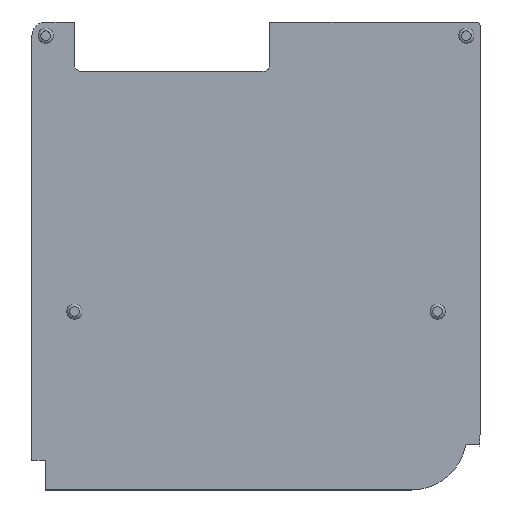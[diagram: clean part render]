
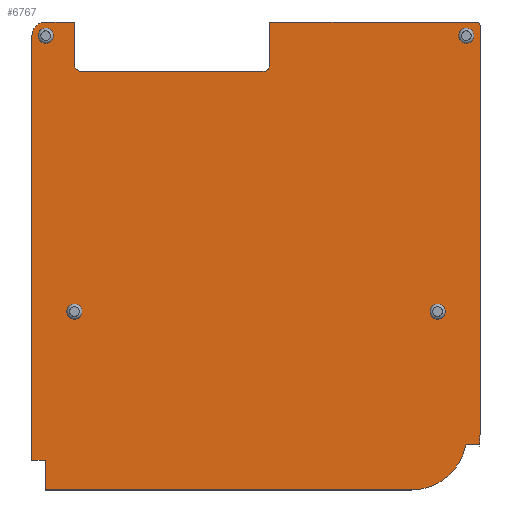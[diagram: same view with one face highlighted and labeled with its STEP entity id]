
A CAD part, top view. The second image highlights one B-rep face of the part: STEP entity #6767.
In plain terms, the highlighted planar face has unit normal (0, 0, 1).
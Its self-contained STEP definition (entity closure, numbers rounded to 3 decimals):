
#43=CIRCLE('',#7010,0.5);
#44=CIRCLE('',#7013,0.5);
#45=CIRCLE('',#7016,1.);
#46=CIRCLE('',#7017,4.05);
#47=CIRCLE('',#7018,5.);
#48=CIRCLE('',#7019,0.25);
#49=CIRCLE('',#7020,0.55);
#50=CIRCLE('',#7021,0.55);
#51=CIRCLE('',#7022,0.55);
#52=CIRCLE('',#7023,0.55);
#96=FACE_BOUND('',#1010,.T.);
#97=FACE_BOUND('',#1011,.T.);
#98=FACE_BOUND('',#1012,.T.);
#99=FACE_BOUND('',#1013,.T.);
#276=PLANE('',#7015);
#623=FACE_OUTER_BOUND('',#1009,.T.);
#1009=EDGE_LOOP('',(#6107,#6108,#6109,#6110,#6111,#6112,#6113,#6114,#6115,
#6116,#6117,#6118,#6119,#6120,#6121,#6122,#6123,#6124));
#1010=EDGE_LOOP('',(#6125));
#1011=EDGE_LOOP('',(#6126));
#1012=EDGE_LOOP('',(#6127));
#1013=EDGE_LOOP('',(#6128));
#1653=LINE('',#11913,#2320);
#1659=LINE('',#11926,#2326);
#1664=LINE('',#11938,#2331);
#1665=LINE('',#11941,#2332);
#1666=LINE('',#11945,#2333);
#1667=LINE('',#11947,#2334);
#1668=LINE('',#11949,#2335);
#1669=LINE('',#11951,#2336);
#1670=LINE('',#11955,#2337);
#1671=LINE('',#11957,#2338);
#1672=LINE('',#11961,#2339);
#1673=LINE('',#11964,#2340);
#2320=VECTOR('',#8039,10.);
#2326=VECTOR('',#8051,10.);
#2331=VECTOR('',#8062,10.);
#2332=VECTOR('',#8065,10.);
#2333=VECTOR('',#8068,10.);
#2334=VECTOR('',#8069,10.);
#2335=VECTOR('',#8070,10.);
#2336=VECTOR('',#8071,10.);
#2337=VECTOR('',#8074,10.);
#2338=VECTOR('',#8075,10.);
#2339=VECTOR('',#8078,10.);
#2340=VECTOR('',#8081,10.);
#3275=VERTEX_POINT('',#11910);
#3276=VERTEX_POINT('',#11912);
#3279=VERTEX_POINT('',#11920);
#3280=VERTEX_POINT('',#11924);
#3281=VERTEX_POINT('',#11928);
#3284=VERTEX_POINT('',#11936);
#3285=VERTEX_POINT('',#11940);
#3286=VERTEX_POINT('',#11942);
#3287=VERTEX_POINT('',#11944);
#3288=VERTEX_POINT('',#11946);
#3289=VERTEX_POINT('',#11948);
#3290=VERTEX_POINT('',#11950);
#3291=VERTEX_POINT('',#11952);
#3292=VERTEX_POINT('',#11954);
#3293=VERTEX_POINT('',#11956);
#3294=VERTEX_POINT('',#11958);
#3295=VERTEX_POINT('',#11960);
#3296=VERTEX_POINT('',#11962);
#3297=VERTEX_POINT('',#11965);
#3298=VERTEX_POINT('',#11967);
#3299=VERTEX_POINT('',#11969);
#3300=VERTEX_POINT('',#11971);
#4226=EDGE_CURVE('',#3276,#3275,#1653,.T.);
#4231=EDGE_CURVE('',#3275,#3279,#43,.T.);
#4233=EDGE_CURVE('',#3279,#3280,#1659,.T.);
#4235=EDGE_CURVE('',#3280,#3281,#44,.T.);
#4239=EDGE_CURVE('',#3281,#3284,#1664,.T.);
#4240=EDGE_CURVE('',#3284,#3285,#1665,.T.);
#4241=EDGE_CURVE('',#3285,#3286,#45,.T.);
#4242=EDGE_CURVE('',#3286,#3287,#1666,.T.);
#4243=EDGE_CURVE('',#3287,#3288,#1667,.T.);
#4244=EDGE_CURVE('',#3288,#3289,#1668,.T.);
#4245=EDGE_CURVE('',#3289,#3290,#1669,.T.);
#4246=EDGE_CURVE('',#3290,#3291,#46,.T.);
#4247=EDGE_CURVE('',#3291,#3292,#1670,.T.);
#4248=EDGE_CURVE('',#3292,#3293,#1671,.T.);
#4249=EDGE_CURVE('',#3293,#3294,#47,.T.);
#4250=EDGE_CURVE('',#3294,#3295,#1672,.T.);
#4251=EDGE_CURVE('',#3296,#3295,#48,.T.);
#4252=EDGE_CURVE('',#3296,#3276,#1673,.T.);
#4253=EDGE_CURVE('',#3297,#3297,#49,.T.);
#4254=EDGE_CURVE('',#3298,#3298,#50,.T.);
#4255=EDGE_CURVE('',#3299,#3299,#51,.T.);
#4256=EDGE_CURVE('',#3300,#3300,#52,.T.);
#6107=ORIENTED_EDGE('',*,*,#4226,.T.);
#6108=ORIENTED_EDGE('',*,*,#4231,.T.);
#6109=ORIENTED_EDGE('',*,*,#4233,.T.);
#6110=ORIENTED_EDGE('',*,*,#4235,.T.);
#6111=ORIENTED_EDGE('',*,*,#4239,.T.);
#6112=ORIENTED_EDGE('',*,*,#4240,.T.);
#6113=ORIENTED_EDGE('',*,*,#4241,.T.);
#6114=ORIENTED_EDGE('',*,*,#4242,.T.);
#6115=ORIENTED_EDGE('',*,*,#4243,.T.);
#6116=ORIENTED_EDGE('',*,*,#4244,.T.);
#6117=ORIENTED_EDGE('',*,*,#4245,.T.);
#6118=ORIENTED_EDGE('',*,*,#4246,.T.);
#6119=ORIENTED_EDGE('',*,*,#4247,.T.);
#6120=ORIENTED_EDGE('',*,*,#4248,.T.);
#6121=ORIENTED_EDGE('',*,*,#4249,.T.);
#6122=ORIENTED_EDGE('',*,*,#4250,.T.);
#6123=ORIENTED_EDGE('',*,*,#4251,.F.);
#6124=ORIENTED_EDGE('',*,*,#4252,.T.);
#6125=ORIENTED_EDGE('',*,*,#4253,.T.);
#6126=ORIENTED_EDGE('',*,*,#4254,.T.);
#6127=ORIENTED_EDGE('',*,*,#4255,.T.);
#6128=ORIENTED_EDGE('',*,*,#4256,.T.);
#6767=ADVANCED_FACE('',(#623,#96,#97,#98,#99),#276,.T.);
#7010=AXIS2_PLACEMENT_3D('',#11922,#8046,#8047);
#7013=AXIS2_PLACEMENT_3D('',#11930,#8055,#8056);
#7015=AXIS2_PLACEMENT_3D('',#11939,#8063,#8064);
#7016=AXIS2_PLACEMENT_3D('',#11943,#8066,#8067);
#7017=AXIS2_PLACEMENT_3D('',#11953,#8072,#8073);
#7018=AXIS2_PLACEMENT_3D('',#11959,#8076,#8077);
#7019=AXIS2_PLACEMENT_3D('',#11963,#8079,#8080);
#7020=AXIS2_PLACEMENT_3D('',#11966,#8082,#8083);
#7021=AXIS2_PLACEMENT_3D('',#11968,#8084,#8085);
#7022=AXIS2_PLACEMENT_3D('',#11970,#8086,#8087);
#7023=AXIS2_PLACEMENT_3D('',#11972,#8088,#8089);
#8039=DIRECTION('',(0.,-1.,0.));
#8046=DIRECTION('center_axis',(0.,0.,-1.));
#8047=DIRECTION('ref_axis',(1.,0.,0.));
#8051=DIRECTION('',(-1.,0.,0.));
#8055=DIRECTION('center_axis',(0.,0.,-1.));
#8056=DIRECTION('ref_axis',(0.,-1.,0.));
#8062=DIRECTION('',(0.,1.,0.));
#8063=DIRECTION('center_axis',(0.,0.,1.));
#8064=DIRECTION('ref_axis',(1.,0.,0.));
#8065=DIRECTION('',(-1.,0.,0.));
#8066=DIRECTION('center_axis',(0.,0.,1.));
#8067=DIRECTION('ref_axis',(0.,1.,0.));
#8068=DIRECTION('',(0.,-1.,0.));
#8069=DIRECTION('',(1.,0.,0.));
#8070=DIRECTION('',(0.,-1.,0.));
#8071=DIRECTION('',(1.,0.,0.));
#8072=DIRECTION('center_axis',(0.,0.,1.));
#8073=DIRECTION('ref_axis',(0.554,-0.832,0.));
#8074=DIRECTION('',(1.,0.,0.));
#8075=DIRECTION('',(0.,-1.,0.));
#8076=DIRECTION('center_axis',(0.,0.,1.));
#8077=DIRECTION('ref_axis',(0.985,-0.17,0.));
#8078=DIRECTION('',(0.,1.,0.));
#8079=DIRECTION('center_axis',(0.,0.,-1.));
#8080=DIRECTION('ref_axis',(0.707,0.707,0.));
#8081=DIRECTION('',(-1.,0.,0.));
#8082=DIRECTION('center_axis',(0.,0.,-1.));
#8083=DIRECTION('ref_axis',(1.,0.,0.));
#8084=DIRECTION('center_axis',(0.,0.,-1.));
#8085=DIRECTION('ref_axis',(1.,0.,0.));
#8086=DIRECTION('center_axis',(0.,0.,-1.));
#8087=DIRECTION('ref_axis',(1.,0.,0.));
#8088=DIRECTION('center_axis',(0.,0.,-1.));
#8089=DIRECTION('ref_axis',(1.,0.,0.));
#11910=CARTESIAN_POINT('',(1.,14.4,-0.975));
#11912=CARTESIAN_POINT('',(1.,17.5,-0.975));
#11913=CARTESIAN_POINT('',(1.,7.413,-0.975));
#11920=CARTESIAN_POINT('',(0.5,13.9,-0.975));
#11922=CARTESIAN_POINT('Origin',(0.5,14.4,-0.975));
#11924=CARTESIAN_POINT('',(-12.7,13.9,-0.975));
#11926=CARTESIAN_POINT('',(-6.35,13.9,-0.975));
#11928=CARTESIAN_POINT('',(-13.2,14.4,-0.975));
#11930=CARTESIAN_POINT('Origin',(-12.7,14.4,-0.975));
#11936=CARTESIAN_POINT('',(-13.2,17.5,-0.975));
#11938=CARTESIAN_POINT('',(-13.2,8.963,-0.975));
#11939=CARTESIAN_POINT('Origin',(0.,0.425,
-0.975));
#11940=CARTESIAN_POINT('',(-15.3,17.5,-0.975));
#11941=CARTESIAN_POINT('',(16.3,17.5,-0.975));
#11942=CARTESIAN_POINT('',(-16.3,16.5,-0.975));
#11943=CARTESIAN_POINT('Origin',(-15.3,16.5,-0.975));
#11944=CARTESIAN_POINT('',(-16.3,-14.4,-0.975));
#11945=CARTESIAN_POINT('',(-16.3,16.5,-0.975));
#11946=CARTESIAN_POINT('',(-15.35,-14.4,-0.975));
#11947=CARTESIAN_POINT('',(-8.15,-14.4,-0.975));
#11948=CARTESIAN_POINT('',(-15.35,-16.55,-0.975));
#11949=CARTESIAN_POINT('',(-15.35,-7.038,-0.975));
#11950=CARTESIAN_POINT('',(11.3,-16.55,-0.975));
#11951=CARTESIAN_POINT('',(-7.725,-16.55,-0.975));
#11952=CARTESIAN_POINT('',(15.28,-13.25,-0.975));
#11953=CARTESIAN_POINT('Origin',(11.3,-12.5,-0.975));
#11954=CARTESIAN_POINT('',(16.227,-13.25,-0.975));
#11955=CARTESIAN_POINT('',(7.681,-13.25,-0.975));
#11956=CARTESIAN_POINT('',(16.227,-13.35,-0.975));
#11957=CARTESIAN_POINT('',(16.227,-6.463,-0.975));
#11958=CARTESIAN_POINT('',(16.3,-12.5,-0.975));
#11959=CARTESIAN_POINT('Origin',(11.3,-12.5,-0.975));
#11960=CARTESIAN_POINT('',(16.3,17.25,-0.975));
#11961=CARTESIAN_POINT('',(16.3,-12.5,-0.975));
#11962=CARTESIAN_POINT('',(16.05,17.5,-0.975));
#11963=CARTESIAN_POINT('Origin',(16.05,17.25,-0.975));
#11964=CARTESIAN_POINT('',(16.3,17.5,-0.975));
#11965=CARTESIAN_POINT('',(14.75,16.5,-0.975));
#11966=CARTESIAN_POINT('Origin',(15.3,16.5,-0.975));
#11967=CARTESIAN_POINT('',(12.661,-3.57,-0.975));
#11968=CARTESIAN_POINT('Origin',(13.211,-3.57,-0.975));
#11969=CARTESIAN_POINT('',(-15.85,16.5,-0.975));
#11970=CARTESIAN_POINT('Origin',(-15.3,16.5,-0.975));
#11971=CARTESIAN_POINT('',(-13.761,-3.57,-0.975));
#11972=CARTESIAN_POINT('Origin',(-13.211,-3.57,-0.975));
